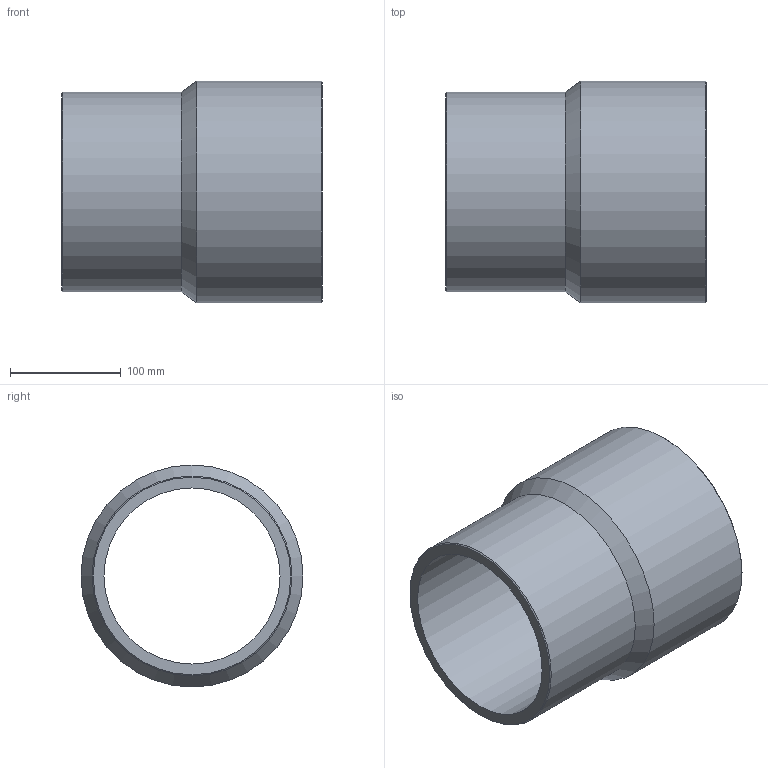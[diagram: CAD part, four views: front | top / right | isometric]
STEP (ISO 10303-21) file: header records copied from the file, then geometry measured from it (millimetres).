
FILE_DESCRIPTION(/* description */ ('Unknown'),/* implementation_level */ '2;1');
FILE_NAME(/* name */ 'RP200180B',/* time_stamp */ '2021-09-17T11:44:23+02:00',/* author */ ('Unknown'),/* organization */ ('Unknown'),/* preprocessor_version */ 'ST-DEVELOPER v16.7',/* originating_system */ 'Solid Edge',/* authorisation */ 'Unknown');
FILE_SCHEMA (('AUTOMOTIVE_DESIGN {1 0 10303 214 3 1 1}'));
Length unit declared in the file: millimetre
Products named in the file (1): RP200180B
Bounding box: 235 x 200 x 200 mm (x, y, z)
Volume: 1557724.3 mm3; surface area: 278703.5 mm2
Topology: 1 solids, 1 shells, 10 faces, 19 edges, 11 vertices
Faces by surface type: cylinder 4, cone 4, plane 2
Full cylindrical faces by diameter (mm): 158.6 x1, 176.2 x1, 180 x1, 200 x1
Entity records: 238 total; most frequent: DIRECTION 42, CARTESIAN_POINT 31, AXIS2_PLACEMENT_3D 21, ORIENTED_EDGE 20, EDGE_LOOP 20, FACE_BOUND 20, EDGE_CURVE 10, VERTEX_POINT 10
